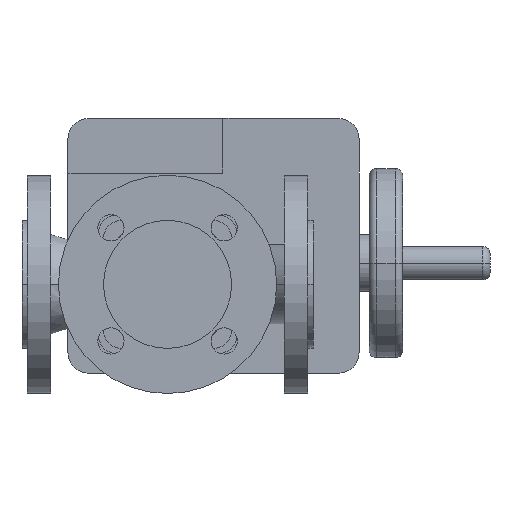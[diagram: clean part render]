
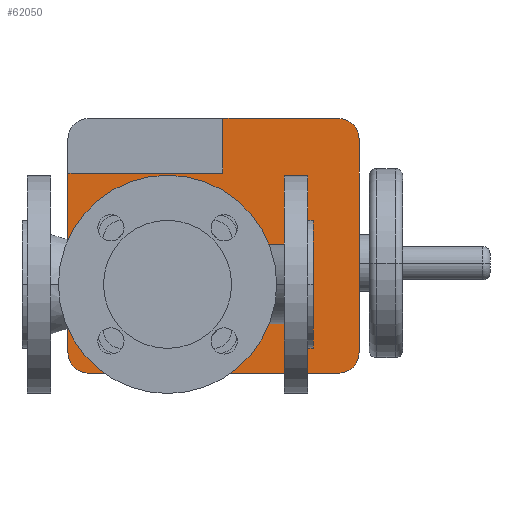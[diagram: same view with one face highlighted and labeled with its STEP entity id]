
A CAD part, front view. The second image highlights one B-rep face of the part: STEP entity #62050.
In plain terms, the highlighted planar face has unit normal (0, -1, 0).
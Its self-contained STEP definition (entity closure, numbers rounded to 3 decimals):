
#53730=CARTESIAN_POINT('',(31.6,584.5,-47.));
#53740=DIRECTION('',(0.,0.,1.));
#53750=VECTOR('',#53740,1.);
#53760=LINE('',#53730,#53750);
#53770=CARTESIAN_POINT('',(31.6,584.5,-47.));
#53780=VERTEX_POINT('',#53770);
#53790=CARTESIAN_POINT('',(31.6,584.5,76.5));
#53800=VERTEX_POINT('',#53790);
#53810=EDGE_CURVE('',#53780,#53800,#53760,.T.);
#56670=CARTESIAN_POINT('',(231.6,584.5,-47.));
#56680=VERTEX_POINT('',#56670);
#56710=CARTESIAN_POINT('',(231.6,584.5,100.));
#56720=DIRECTION('',(0.,0.,-1.));
#56730=VECTOR('',#56720,1.);
#56740=LINE('',#56710,#56730);
#56750=CARTESIAN_POINT('',(231.6,584.5,100.));
#56760=VERTEX_POINT('',#56750);
#56770=EDGE_CURVE('',#56760,#56680,#56740,.T.);
#60450=CARTESIAN_POINT('',(45.6,584.5,-61.));
#60460=VERTEX_POINT('',#60450);
#60490=CARTESIAN_POINT('',(217.6,584.5,-61.));
#60500=DIRECTION('',(-1.,0.,0.));
#60510=VECTOR('',#60500,1.);
#60520=LINE('',#60490,#60510);
#60530=CARTESIAN_POINT('',(217.6,584.5,-61.));
#60540=VERTEX_POINT('',#60530);
#60550=EDGE_CURVE('',#60540,#60460,#60520,.T.);
#60780=CARTESIAN_POINT('',(100.,584.5,0.));
#60790=DIRECTION('',(0.,1.,0.));
#60800=DIRECTION('',(0.,0.,1.));
#60810=AXIS2_PLACEMENT_3D('',#60780,#60790,#60800);
#60820=PLANE('',#60810);
#60830=CARTESIAN_POINT('',(152.2,584.5,0.));
#60840=DIRECTION('',(0.,1.,0.));
#60850=DIRECTION('',(-0.906,0.,-0.422));
#60860=AXIS2_PLACEMENT_3D('',#60830,#60840,#60850);
#60870=CIRCLE('',#60860,116.);
#60880=CARTESIAN_POINT('',(47.058,584.5,-49.002));
#60890=VERTEX_POINT('',#60880);
#60900=CARTESIAN_POINT('',(47.058,584.5,49.002));
#60910=VERTEX_POINT('',#60900);
#60920=EDGE_CURVE('',#60890,#60910,#60870,.T.);
#60930=ORIENTED_EDGE('',*,*,#60920,.T.);
#60940=CARTESIAN_POINT('',(55.216,584.5,-45.2));
#60950=DIRECTION('',(0.,1.,0.));
#60960=DIRECTION('',(0.,0.,-1.));
#60970=AXIS2_PLACEMENT_3D('',#60940,#60950,#60960);
#60980=CIRCLE('',#60970,9.);
#60990=CARTESIAN_POINT('',(55.216,584.5,-54.2));
#61000=VERTEX_POINT('',#60990);
#61010=EDGE_CURVE('',#61000,#60890,#60980,.T.);
#61020=ORIENTED_EDGE('',*,*,#61010,.T.);
#61030=CARTESIAN_POINT('',(122.392,584.5,-54.2));
#61040=DIRECTION('',(-1.,0.,0.));
#61050=VECTOR('',#61040,1.);
#61060=LINE('',#61030,#61050);
#61070=CARTESIAN_POINT('',(144.784,584.5,-54.2));
#61080=VERTEX_POINT('',#61070);
#61090=EDGE_CURVE('',#61080,#61000,#61060,.T.);
#61100=ORIENTED_EDGE('',*,*,#61090,.T.);
#61110=CARTESIAN_POINT('',(144.784,584.5,-45.2));
#61120=DIRECTION('',(0.,1.,0.));
#61130=DIRECTION('',(0.906,0.,-0.422));
#61140=AXIS2_PLACEMENT_3D('',#61110,#61120,#61130);
#61150=CIRCLE('',#61140,9.);
#61160=CARTESIAN_POINT('',(152.942,584.5,-49.002));
#61170=VERTEX_POINT('',#61160);
#61180=EDGE_CURVE('',#61170,#61080,#61150,.T.);
#61190=ORIENTED_EDGE('',*,*,#61180,.T.);
#61200=CARTESIAN_POINT('',(47.8,584.5,0.)
);
#61210=DIRECTION('',(0.,1.,0.));
#61220=DIRECTION('',(0.906,0.,0.422));
#61230=AXIS2_PLACEMENT_3D('',#61200,#61210,#61220);
#61240=CIRCLE('',#61230,116.);
#61250=CARTESIAN_POINT('',(152.942,584.5,49.002));
#61260=VERTEX_POINT('',#61250);
#61270=EDGE_CURVE('',#61260,#61170,#61240,.T.);
#61280=ORIENTED_EDGE('',*,*,#61270,.T.);
#61290=CARTESIAN_POINT('',(144.784,584.5,45.2));
#61300=DIRECTION('',(0.,1.,0.));
#61310=DIRECTION('',(0.,0.,1.));
#61320=AXIS2_PLACEMENT_3D('',#61290,#61300,#61310);
#61330=CIRCLE('',#61320,9.);
#61340=CARTESIAN_POINT('',(144.784,584.5,54.2));
#61350=VERTEX_POINT('',#61340);
#61360=EDGE_CURVE('',#61350,#61260,#61330,.T.);
#61370=ORIENTED_EDGE('',*,*,#61360,.T.);
#61380=CARTESIAN_POINT('',(77.608,584.5,54.2));
#61390=DIRECTION('',(1.,0.,0.));
#61400=VECTOR('',#61390,1.);
#61410=LINE('',#61380,#61400);
#61420=CARTESIAN_POINT('',(55.216,584.5,54.2));
#61430=VERTEX_POINT('',#61420);
#61440=EDGE_CURVE('',#61430,#61350,#61410,.T.);
#61450=ORIENTED_EDGE('',*,*,#61440,.T.);
#61460=CARTESIAN_POINT('',(55.216,584.5,45.2));
#61470=DIRECTION('',(0.,1.,0.));
#61480=DIRECTION('',(-0.906,0.,0.422));
#61490=AXIS2_PLACEMENT_3D('',#61460,#61470,#61480);
#61500=CIRCLE('',#61490,9.);
#61510=EDGE_CURVE('',#60910,#61430,#61500,.T.);
#61520=ORIENTED_EDGE('',*,*,#61510,.T.);
#61530=EDGE_LOOP('',(#61520,#61450,#61370,#61280,#61190,#61100,#61020,
#60930));
#61540=FACE_BOUND('',#61530,.T.);
#61550=CARTESIAN_POINT('',(138.1,584.5,38.25));
#61560=DIRECTION('',(0.,0.,-1.));
#61570=VECTOR('',#61560,1.);
#61580=LINE('',#61550,#61570);
#61590=CARTESIAN_POINT('',(138.1,584.5,114.));
#61600=VERTEX_POINT('',#61590);
#61610=CARTESIAN_POINT('',(138.1,584.5,76.5));
#61620=VERTEX_POINT('',#61610);
#61630=EDGE_CURVE('',#61600,#61620,#61580,.T.);
#61640=ORIENTED_EDGE('',*,*,#61630,.T.);
#61650=CARTESIAN_POINT('',(45.6,584.5,114.));
#61660=DIRECTION('',(1.,0.,0.));
#61670=VECTOR('',#61660,1.);
#61680=LINE('',#61650,#61670);
#61690=CARTESIAN_POINT('',(217.6,584.5,114.));
#61700=VERTEX_POINT('',#61690);
#61710=EDGE_CURVE('',#61600,#61700,#61680,.T.);
#61720=ORIENTED_EDGE('',*,*,#61710,.F.);
#61730=CARTESIAN_POINT('',(217.6,584.5,100.));
#61740=DIRECTION('',(0.,1.,0.));
#61750=DIRECTION('',(0.,0.,1.));
#61760=AXIS2_PLACEMENT_3D('',#61730,#61740,#61750);
#61770=CIRCLE('',#61760,14.);
#61780=EDGE_CURVE('',#61700,#56760,#61770,.T.);
#61790=ORIENTED_EDGE('',*,*,#61780,.F.);
#61800=ORIENTED_EDGE('',*,*,#56770,.F.);
#61810=CARTESIAN_POINT('',(217.6,584.5,-47.));
#61820=DIRECTION('',(0.,1.,0.));
#61830=DIRECTION('',(1.,0.,0.));
#61840=AXIS2_PLACEMENT_3D('',#61810,#61820,#61830);
#61850=CIRCLE('',#61840,14.);
#61860=EDGE_CURVE('',#56680,#60540,#61850,.T.);
#61870=ORIENTED_EDGE('',*,*,#61860,.F.);
#61880=ORIENTED_EDGE('',*,*,#60550,.F.);
#61890=CARTESIAN_POINT('',(45.6,584.5,-47.));
#61900=DIRECTION('',(0.,1.,0.));
#61910=DIRECTION('',(0.,0.,-1.));
#61920=AXIS2_PLACEMENT_3D('',#61890,#61900,#61910);
#61930=CIRCLE('',#61920,14.);
#61940=EDGE_CURVE('',#60460,#53780,#61930,.T.);
#61950=ORIENTED_EDGE('',*,*,#61940,.F.);
#61960=ORIENTED_EDGE('',*,*,#53810,.F.);
#61970=CARTESIAN_POINT('',(65.3,584.5,76.5));
#61980=DIRECTION('',(-1.,0.,0.));
#61990=VECTOR('',#61980,1.);
#62000=LINE('',#61970,#61990);
#62010=EDGE_CURVE('',#61620,#53800,#62000,.T.);
#62020=ORIENTED_EDGE('',*,*,#62010,.T.);
#62030=EDGE_LOOP('',(#62020,#61960,#61950,#61880,#61870,#61800,#61790,
#61720,#61640));
#62040=FACE_OUTER_BOUND('',#62030,.T.);
#62050=ADVANCED_FACE('',(#61540,#62040),#60820,.F.);
